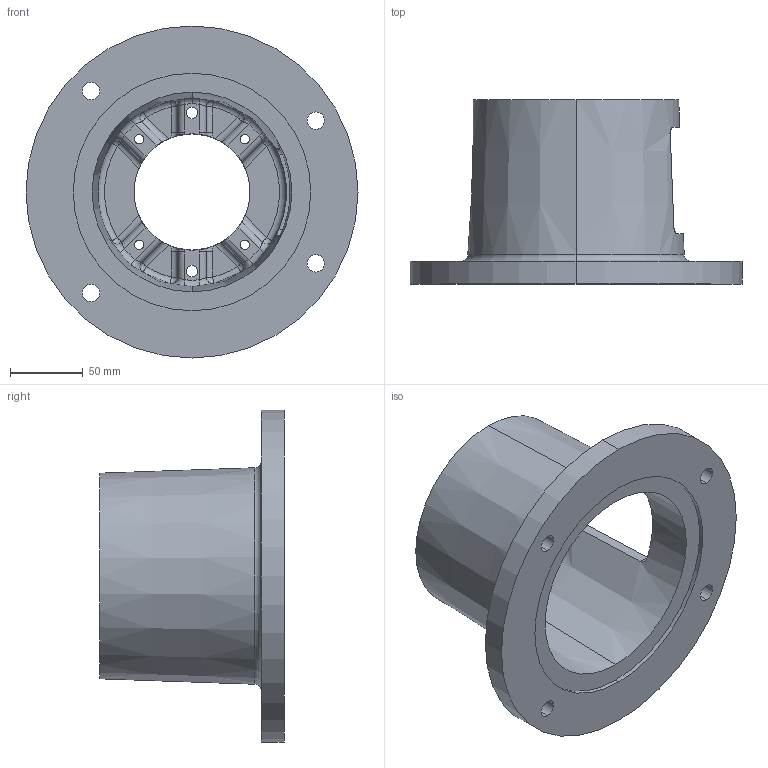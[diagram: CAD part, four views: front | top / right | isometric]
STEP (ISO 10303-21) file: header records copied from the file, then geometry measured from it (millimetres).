
FILE_DESCRIPTION (( 'STEP AP203' ), '1' );
FILE_NAME ('E7005080M.STEP', '2014-11-04T12:56:44', ( '' ), ( '' ), 'SwSTEP 2.0', 'SolidWorks 2014', '' );
FILE_SCHEMA (( 'CONFIG_CONTROL_DESIGN' ));
Length unit declared in the file: inch
Products named in the file (1): E7005080M
Bounding box: 228.6 x 127 x 228.6 mm (x, y, z)
Volume: 755845.1 mm3; surface area: 180138.3 mm2
Topology: 1 solids, 1 shells, 153 faces, 388 edges, 227 vertices
Faces by surface type: cylinder 58, plane 32, bspline 24, torus 23, sphere 12, cone 4
Entity records: 6533 total; most frequent: CARTESIAN_POINT 2915, ORIENTED_EDGE 752, DIRECTION 742, EDGE_CURVE 376, AXIS2_PLACEMENT_3D 320, VERTEX_POINT 227, CIRCLE 190, EDGE_LOOP 179
